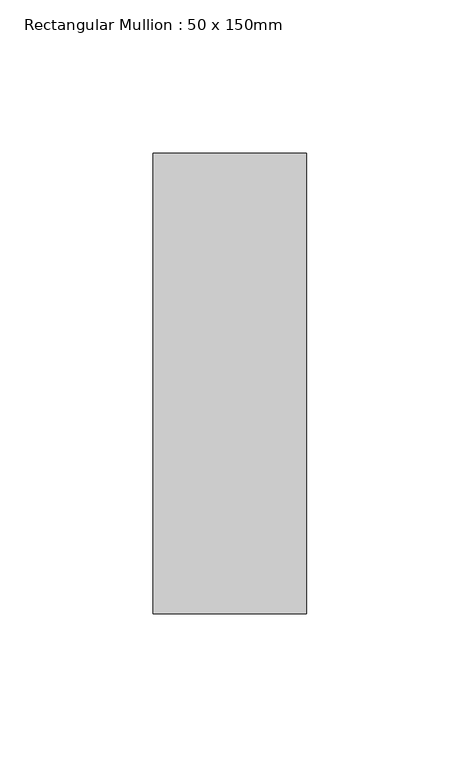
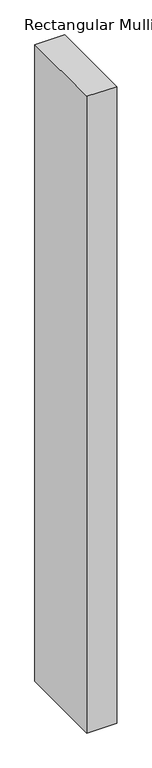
"""IFC4 building model written with IfcOpenShell, lengths in millimetres: member geometry, Rectangular Mullion : 50 x 150mm."""

import ifcopenshell
import ifcopenshell.guid

model = None  # the IFC model being written
_history = None  # IfcOwnerHistory: only IFC2X3 demands one
_inside = {}  # id of a spatial element -> (the spatial element, [elements in it])
_under = {}  # id of a project, library or spatial element -> (it, [spatial elements below it])
_declared = {}  # id of a project -> (the project, [libraries it declares])
_typed = {}  # id of a type object -> (the type object, [elements of that type])
_made_of = {}  # id of a material, layer set ... -> (it, [elements and type objects made of it])


def new_model(schema):
    """Start an empty IFC model of exactly this schema.

    Asked for "IFC4X3", IfcOpenShell would pick the latest addendum, in which some entities
    have other attributes; the version numbers below select the first issue.
    IFC2X3 requires an IfcOwnerHistory on every rooted entity: one is made here for all.
    """
    global model, _history
    if schema == "IFC4X3":
        model = ifcopenshell.file(schema_version=(4, 3, 0, 0))
    else:
        model = ifcopenshell.file(schema=schema)
    _inside.clear()
    _under.clear()
    _declared.clear()
    _typed.clear()
    _made_of.clear()
    _history = None
    if model.schema == "IFC2X3":
        org = make("IfcOrganization", Name="unknown")
        user = make(
            "IfcPersonAndOrganization",
            ThePerson=make("IfcPerson", FamilyName="unknown"),
            TheOrganization=org,
        )
        app = make(
            "IfcApplication",
            ApplicationDeveloper=org,
            Version="unknown",
            ApplicationFullName="unknown",
            ApplicationIdentifier="unknown",
        )
        _history = make(
            "IfcOwnerHistory",
            OwningUser=user,
            OwningApplication=app,
            ChangeAction="ADDED",
            CreationDate=0,
        )
    return model


def make(cls, **values):
    """One entity of the class cls with the attributes given. An attribute that is None is left unset."""
    return model.create_entity(
        cls, **{name: value for name, value in values.items() if value is not None}
    )


def rooted(cls, **values):
    """An entity with a GlobalId (a new one), such as an element, a storey or a relation."""
    return make(cls, GlobalId=ifcopenshell.guid.new(), OwnerHistory=_history, **values)


def si_unit(unit_type, name, prefix=None):
    """IfcSIUnit, for example si_unit("LENGTHUNIT", "METRE", prefix="MILLI")."""
    return make("IfcSIUnit", UnitType=unit_type, Prefix=prefix, Name=name)


def assignment(units):
    """IfcUnitAssignment: the units of a project."""
    return None if units is None else make("IfcUnitAssignment", Units=units)


def point(xyz):
    """IfcCartesianPoint."""
    return None if xyz is None else make("IfcCartesianPoint", Coordinates=xyz)


def direction(xyz):
    """IfcDirection."""
    return None if xyz is None else make("IfcDirection", DirectionRatios=xyz)


def frame(location, z_axis=None, x_axis=None):
    """IfcAxis2Placement3D, a coordinate frame: its origin and axes. An axis left out is left unset."""
    return make(
        "IfcAxis2Placement3D",
        Location=point(location),
        Axis=direction(z_axis),
        RefDirection=direction(x_axis),
    )


def origin():
    """The frame at (0, 0, 0) with its axes left unset."""
    return frame((0.0, 0.0, 0.0))


def place(relative_to, where):
    """IfcLocalPlacement: puts the frame where relative to a parent placement (None: the world)."""
    return make(
        "IfcLocalPlacement", PlacementRelTo=relative_to, RelativePlacement=where
    )


def context(
    kind, dimensions, precision=None, world=None, true_north=None, identifier=None
):
    """IfcGeometricRepresentationContext, for example the 3D "Model" context."""
    return make(
        "IfcGeometricRepresentationContext",
        ContextIdentifier=identifier,
        ContextType=kind,
        CoordinateSpaceDimension=dimensions,
        Precision=precision,
        WorldCoordinateSystem=world,
        TrueNorth=true_north,
    )


def project(units=None, contexts=None):
    """IfcProject with its units and contexts."""
    return rooted(
        "IfcProject",
        Name="project",
        RepresentationContexts=contexts,
        UnitsInContext=assignment(units),
    )


def spatial(cls, under=None, at=None, **own):
    """A site, building, storey or space (cls), placed at a placement, below another one or the project."""
    s = rooted(cls, ObjectPlacement=at, **own)
    if under is not None:
        _under.setdefault(under.id(), (under, []))[1].append(s)
    return s


def polyline(points):
    """IfcPolyline through the points."""
    return make("IfcPolyline", Points=[point(p) for p in points])


def outline(outer, holes=None, kind="AREA"):
    """IfcArbitraryClosedProfileDef: a profile drawn as a closed curve; with holes, ...WithVoids."""
    if holes is None:
        return make("IfcArbitraryClosedProfileDef", ProfileType=kind, OuterCurve=outer)
    return make(
        "IfcArbitraryProfileDefWithVoids",
        ProfileType=kind,
        OuterCurve=outer,
        InnerCurves=holes,
    )


def extrude(swept, where, along, depth):
    """IfcExtrudedAreaSolid: the profile swept, set in the frame where, extruded along a direction by depth."""
    return make(
        "IfcExtrudedAreaSolid",
        SweptArea=swept,
        Position=where,
        ExtrudedDirection=direction(along),
        Depth=depth,
    )


def shape(context_of_items, identifier, shape_type, items):
    """IfcShapeRepresentation: the items that make up one representation, for example the "Body"."""
    return make(
        "IfcShapeRepresentation",
        ContextOfItems=context_of_items,
        RepresentationIdentifier=identifier,
        RepresentationType=shape_type,
        Items=items,
    )


def source(mapping_origin, context_of_items, identifier, shape_type, items):
    """IfcRepresentationMap: a shape defined once, which mapped items show again and again."""
    return make(
        "IfcRepresentationMap",
        MappingOrigin=mapping_origin,
        MappedRepresentation=shape(context_of_items, identifier, shape_type, items),
    )


def transform(
    local_origin,
    x_axis=None,
    y_axis=None,
    z_axis=None,
    scale=None,
    scale2=None,
    scale3=None,
    uniform=True,
):
    """IfcCartesianTransformationOperator3D, or its non-uniform kind. x_axis, y_axis, z_axis: its Axis1, 2, 3."""
    if uniform:
        return make(
            "IfcCartesianTransformationOperator3D",
            Axis1=direction(x_axis),
            Axis2=direction(y_axis),
            LocalOrigin=point(local_origin),
            Scale=scale,
            Axis3=direction(z_axis),
        )
    return make(
        "IfcCartesianTransformationOperator3DnonUniform",
        Axis1=direction(x_axis),
        Axis2=direction(y_axis),
        LocalOrigin=point(local_origin),
        Scale=scale,
        Axis3=direction(z_axis),
        Scale2=scale2,
        Scale3=scale3,
    )


def mapped(mapping_source, mapping_target):
    """IfcMappedItem: shows the shape of a source again, moved by a transform."""
    return make(
        "IfcMappedItem", MappingSource=mapping_source, MappingTarget=mapping_target
    )


def made_of(thing, what):
    """Note that an element or type object is made of a material, layer set ...; save() writes the relation."""
    if what is not None:
        _made_of.setdefault(what.id(), (what, []))[1].append(thing)
    return thing


def element(
    cls,
    number,
    at=None,
    inside=None,
    cuts=None,
    type_object=None,
    material=None,
    context=None,
    identifier="Body",
    shape_type=None,
    held_by="IfcProductDefinitionShape",
    body=None,
    shapes=None,
    **own,
):
    """One element of the class cls, such as IfcWall. Its Tag is "e" and its number.

    at: its placement. inside: the storey or other place that contains it. cuts: it is an
    opening in that element (IfcRelVoidsElement). A single representation is given by context,
    identifier, shape_type and body (its items); several are given by shapes. held_by: the class
    of the entity that holds the representations. save() writes the other relations.
    """
    e = rooted(cls, Tag="e%d" % number, ObjectPlacement=at, **own)
    if body is not None:
        shapes = [shape(context, identifier, shape_type, body)]
    if shapes is not None:
        e.Representation = make(held_by, Representations=shapes)
    if inside is not None:
        _inside.setdefault(inside.id(), (inside, []))[1].append(e)
    if cuts is not None:
        rooted(
            "IfcRelVoidsElement", RelatingBuildingElement=cuts, RelatedOpeningElement=e
        )
    if type_object is not None:
        _typed.setdefault(type_object.id(), (type_object, []))[1].append(e)
    return made_of(e, material)


def aggregate(whole, parts):
    """IfcRelAggregates: a whole, such as a stair, and the parts it consists of."""
    return rooted("IfcRelAggregates", RelatingObject=whole, RelatedObjects=parts)


def save(model, path):
    """Write the relations noted so far, then the file.

    IfcRelAggregates (storeys below a building ...), IfcRelContainedInSpatialStructure (elements
    in a storey), IfcRelDefinesByType, IfcRelAssociatesMaterial and IfcRelDeclares: one each for
    every whole, place, type object, material and project.
    """
    for whole, parts in _under.values():
        aggregate(whole, parts)
    for where, things in _inside.values():
        rooted(
            "IfcRelContainedInSpatialStructure",
            RelatedElements=things,
            RelatingStructure=where,
        )
    for kind, things in _typed.values():
        rooted("IfcRelDefinesByType", RelatedObjects=things, RelatingType=kind)
    for what, things in _made_of.values():
        rooted("IfcRelAssociatesMaterial", RelatedObjects=things, RelatingMaterial=what)
    for by, libraries in _declared.values():
        rooted("IfcRelDeclares", RelatingContext=by, RelatedDefinitions=libraries)
    model.write(path)


def rectangular_mullion_50_x_150mm_ae6afb2b(model_context):
    return source(origin(), model_context, "Body", "SweptSolid", [
        extrude(outline(polyline([(0.0, 75.0), (0.0, -75.0), (-50.0, -75.0), (-50.0, 75.0), (0.0, 75.0)])), frame((0.0, 0.0, -1121.975), z_axis=(0.0, 0.0, 1.0), x_axis=(1.0, 0.0, 0.0)), (0.0, 0.0, 1.0), 1121.975),
    ])


if __name__ == "__main__":
    model = new_model("IFC4")
    model_context = context("Model", 3, world=origin())
    ifc_project = project(units=[si_unit("LENGTHUNIT", "METRE", prefix="MILLI")], contexts=[model_context])
    site = spatial("IfcSite", under=ifc_project)
    building = spatial("IfcBuilding", under=site)
    placement = place(None, origin())
    rectangular_mullion_50_x_150mm_shape = rectangular_mullion_50_x_150mm_ae6afb2b(model_context)
    element("IfcMember", 1, ObjectType="Rectangular Mullion : 50 x 150mm", at=placement, inside=building, context=model_context, shape_type="MappedRepresentation", body=[
        mapped(rectangular_mullion_50_x_150mm_shape, transform((0.0, 0.0, 0.0), x_axis=(1.0, 0.0, 0.0), y_axis=(0.0, 1.0, 0.0), z_axis=(0.0, 0.0, 1.0))),
    ])
    save(model, "model.ifc")
